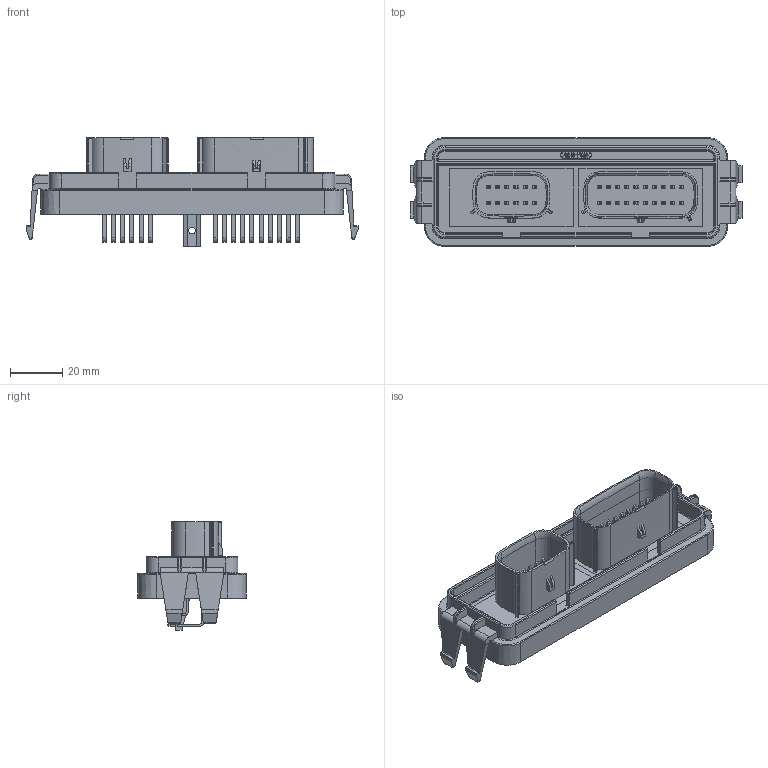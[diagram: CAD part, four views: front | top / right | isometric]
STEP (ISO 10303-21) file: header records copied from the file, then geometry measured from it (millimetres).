
FILE_DESCRIPTION((''),'2;1');
FILE_NAME('5810132011_ASM','2018-02-19T',('Jose.Ponce'),(''),'PRO/ENGINEER BY PARAMETRIC TECHNOLOGY CORPORATION, 2014200','PRO/ENGINEER BY PARAMETRIC TECHNOLOGY CORPORATION, 2014200','');
FILE_SCHEMA(('CONFIG_CONTROL_DESIGN'));
Length unit declared in the file: inch
Products named in the file (11): 4741170136_MX_ME_L20B_R12A_AF0; MOLEX-ME-B-20W_AF1; MOLEX-ME-B-20W_AF0_ASM; MOLEX-ME-A-12W_AF1; MOLEX-ME-A-12W_AF0_ASM; 4828770272-ME-MX-L20B-R12A_ASM; 4040011260_TYPE4; 4040011261_TYPE5; ME-MX-12W-POTTING; ME-MX-20W-POTTING; 5810132011_ASM
Assembly tree (40 placements, depth 4):
  5810132011_ASM
    4828770272-ME-MX-L20B-R12A_ASM
      4741170136_MX_ME_L20B_R12A_AF0
      MOLEX-ME-B-20W_AF0_ASM
        MOLEX-ME-B-20W_AF1
      MOLEX-ME-A-12W_AF0_ASM
        MOLEX-ME-A-12W_AF1
    4040011260_TYPE4  x16
    4040011261_TYPE5  x16
    ME-MX-12W-POTTING
    ME-MX-20W-POTTING
Bounding box: 126.6 x 41.34 x 41.26 mm (x, y, z)
Volume: 36893.7 mm3; surface area: 49689.9 mm2
Topology: 37 solids, 37 shells, 3016 faces, 8117 edges, 5230 vertices
Faces by surface type: plane 2293, cylinder 493, extrusion 116, torus 60, cone 40, sphere 10, bspline 4
Entity records: 57473 total; most frequent: CARTESIAN_POINT 11408, ORIENTED_EDGE 9862, DIRECTION 8707, EDGE_CURVE 4931, VECTOR 4229, LINE 4113, VERTEX_POINT 3190, AXIS2_PLACEMENT_3D 2239
